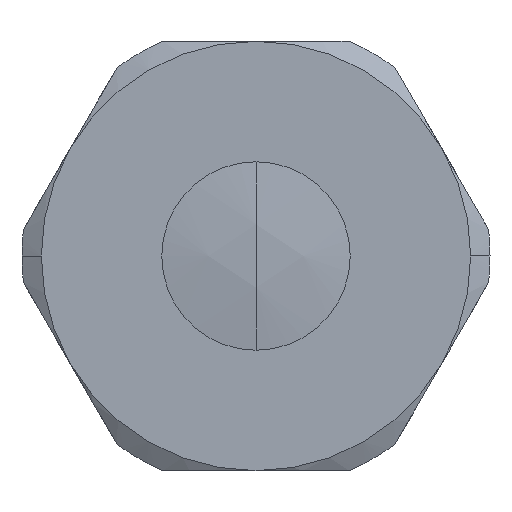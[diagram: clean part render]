
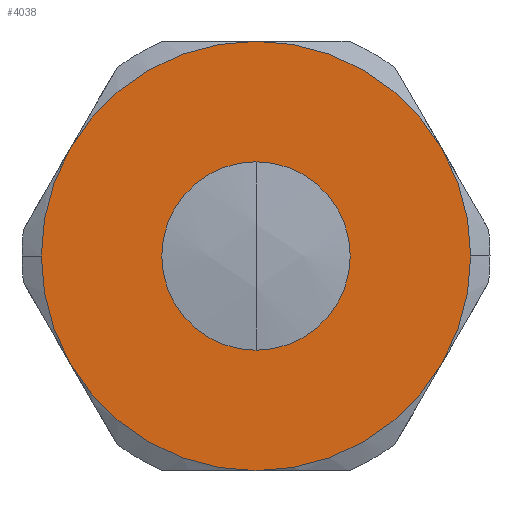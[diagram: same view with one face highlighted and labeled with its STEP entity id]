
A CAD part, left-side view. The second image highlights one B-rep face of the part: STEP entity #4038.
In plain terms, the highlighted planar face has unit normal (-1, 0, 0).
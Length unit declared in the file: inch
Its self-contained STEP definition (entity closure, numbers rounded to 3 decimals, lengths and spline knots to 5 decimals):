
#209=CARTESIAN_POINT('',(-2.,0.2195,0.));
#210=VERTEX_POINT('',#209);
#217=CARTESIAN_POINT('',(-2.,-0.2195,0.));
#218=VERTEX_POINT('',#217);
#219=CARTESIAN_POINT('',(-2.,0.,0.));
#220=DIRECTION('',(1.0,0.0,0.0));
#221=DIRECTION('',(0.0,1.0,0.0));
#222=AXIS2_PLACEMENT_3D('',#219,#220,#221);
#223=CIRCLE('',#222,0.2195);
#224=EDGE_CURVE('',#218,#210,#223,.T.);
#250=CARTESIAN_POINT('',(-2.,-0.5,0.));
#251=VERTEX_POINT('',#250);
#260=CARTESIAN_POINT('',(-2.,-0.43301,-0.25));
#261=VERTEX_POINT('',#260);
#262=CARTESIAN_POINT('',(-2.,0.,0.));
#263=DIRECTION('',(-1.0,0.0,0.0));
#264=DIRECTION('',(0.0,1.0,0.0));
#265=AXIS2_PLACEMENT_3D('',#262,#263,#264);
#266=CIRCLE('',#265,0.5);
#267=EDGE_CURVE('',#261,#251,#266,.T.);
#301=CARTESIAN_POINT('',(-2.,0.5,0.));
#302=VERTEX_POINT('',#301);
#318=CARTESIAN_POINT('',(-2.,0.43301,-0.25));
#319=VERTEX_POINT('',#318);
#333=CARTESIAN_POINT('',(-2.,0.,0.));
#334=DIRECTION('',(-1.0,0.0,0.0));
#335=DIRECTION('',(0.0,1.0,0.0));
#336=AXIS2_PLACEMENT_3D('',#333,#334,#335);
#337=CIRCLE('',#336,0.5);
#338=EDGE_CURVE('',#302,#319,#337,.T.);
#3480=CARTESIAN_POINT('',(-2.,-0.43301,0.25));
#3481=VERTEX_POINT('',#3480);
#3620=CARTESIAN_POINT('',(-2.,0.,-0.5));
#3621=VERTEX_POINT('',#3620);
#3763=CARTESIAN_POINT('',(-2.,0.,0.5));
#3764=VERTEX_POINT('',#3763);
#3807=CARTESIAN_POINT('',(-2.,0.43301,0.25));
#3808=VERTEX_POINT('',#3807);
#3907=CARTESIAN_POINT('',(-2.,0.,0.));
#3908=DIRECTION('',(-1.0,0.0,0.0));
#3909=DIRECTION('',(0.0,1.0,0.0));
#3910=AXIS2_PLACEMENT_3D('',#3907,#3908,#3909);
#3911=CIRCLE('',#3910,0.5);
#3912=EDGE_CURVE('',#3481,#3764,#3911,.T.);
#3926=CARTESIAN_POINT('',(-2.,0.,0.));
#3927=DIRECTION('',(-1.0,0.0,0.0));
#3928=DIRECTION('',(0.0,1.0,0.0));
#3929=AXIS2_PLACEMENT_3D('',#3926,#3927,#3928);
#3930=CIRCLE('',#3929,0.5);
#3931=EDGE_CURVE('',#3764,#3808,#3930,.T.);
#3945=CARTESIAN_POINT('',(-2.,0.,0.));
#3946=DIRECTION('',(-1.0,0.0,0.0));
#3947=DIRECTION('',(0.0,1.0,0.0));
#3948=AXIS2_PLACEMENT_3D('',#3945,#3946,#3947);
#3949=CIRCLE('',#3948,0.5);
#3950=EDGE_CURVE('',#3808,#302,#3949,.T.);
#3966=CARTESIAN_POINT('',(-2.,0.,0.));
#3967=DIRECTION('',(-1.0,0.0,0.0));
#3968=DIRECTION('',(0.0,1.0,0.0));
#3969=AXIS2_PLACEMENT_3D('',#3966,#3967,#3968);
#3970=CIRCLE('',#3969,0.5);
#3971=EDGE_CURVE('',#319,#3621,#3970,.T.);
#3985=CARTESIAN_POINT('',(-2.,0.,0.));
#3986=DIRECTION('',(-1.0,0.0,0.0));
#3987=DIRECTION('',(0.0,1.0,0.0));
#3988=AXIS2_PLACEMENT_3D('',#3985,#3986,#3987);
#3989=CIRCLE('',#3988,0.5);
#3990=EDGE_CURVE('',#3621,#261,#3989,.T.);
#4003=CARTESIAN_POINT('',(-2.,0.,0.));
#4004=DIRECTION('',(-1.0,0.0,0.0));
#4005=DIRECTION('',(0.0,1.0,0.0));
#4006=AXIS2_PLACEMENT_3D('',#4003,#4004,#4005);
#4007=CIRCLE('',#4006,0.5);
#4008=EDGE_CURVE('',#251,#3481,#4007,.T.);
#4013=CARTESIAN_POINT('',(-2.,0.,0.));
#4014=DIRECTION('',(1.0,0.0,0.0));
#4015=DIRECTION('',(0.0,0.0,-1.0));
#4016=AXIS2_PLACEMENT_3D('',#4013,#4014,#4015);
#4017=PLANE('',#4016);
#4018=ORIENTED_EDGE('',*,*,#3912,.T.);
#4019=ORIENTED_EDGE('',*,*,#3931,.T.);
#4020=ORIENTED_EDGE('',*,*,#3950,.T.);
#4021=ORIENTED_EDGE('',*,*,#338,.T.);
#4022=ORIENTED_EDGE('',*,*,#3971,.T.);
#4023=ORIENTED_EDGE('',*,*,#3990,.T.);
#4024=ORIENTED_EDGE('',*,*,#267,.T.);
#4025=ORIENTED_EDGE('',*,*,#4008,.T.);
#4026=EDGE_LOOP('',(#4018,#4019,#4020,#4021,#4022,#4023,#4024,#4025));
#4027=FACE_OUTER_BOUND('',#4026,.T.);
#4028=CARTESIAN_POINT('',(-2.,0.,0.));
#4029=DIRECTION('',(1.0,0.0,0.0));
#4030=DIRECTION('',(0.0,1.0,0.0));
#4031=AXIS2_PLACEMENT_3D('',#4028,#4029,#4030);
#4032=CIRCLE('',#4031,0.2195);
#4033=EDGE_CURVE('',#210,#218,#4032,.T.);
#4034=ORIENTED_EDGE('',*,*,#4033,.T.);
#4035=ORIENTED_EDGE('',*,*,#224,.T.);
#4036=EDGE_LOOP('',(#4034,#4035));
#4037=FACE_BOUND('',#4036,.T.);
#4038=ADVANCED_FACE('',(#4027,#4037),#4017,.F.);
